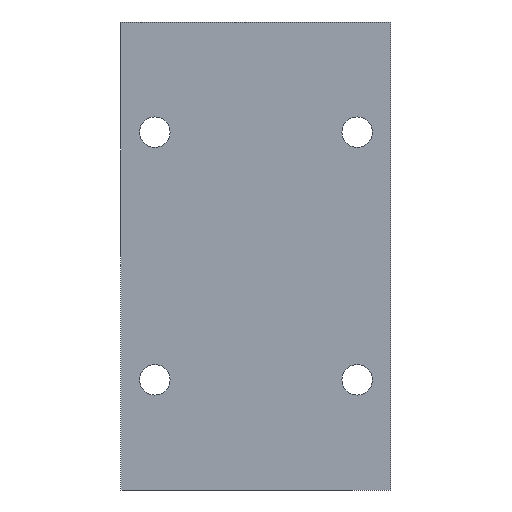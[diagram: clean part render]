
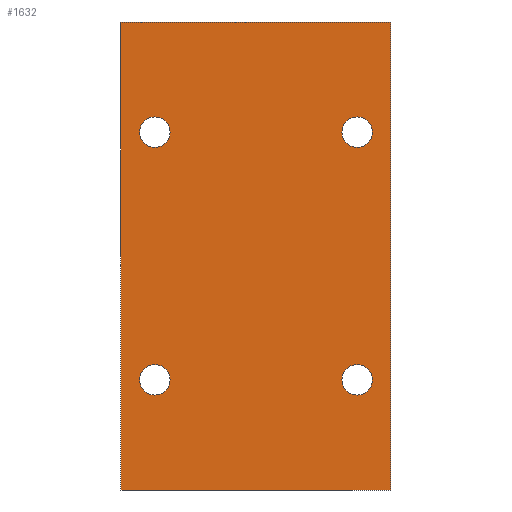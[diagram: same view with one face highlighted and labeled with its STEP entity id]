
A CAD part, front view. The second image highlights one B-rep face of the part: STEP entity #1632.
In plain terms, the highlighted planar face has unit normal (0, -1, 0).
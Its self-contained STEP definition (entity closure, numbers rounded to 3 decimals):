
#72 = CARTESIAN_POINT ( 'NONE',  ( -22.5, -25., -27.5 ) ) ;
#74 = AXIS2_PLACEMENT_3D ( 'NONE', #2046, #172, #781 ) ;
#85 = EDGE_CURVE ( 'NONE', #641, #1463, #175, .T. ) ;
#125 = ORIENTED_EDGE ( 'NONE', *, *, #975, .T. ) ;
#127 = CIRCLE ( 'NONE', #1926, 3.4 ) ;
#129 = CARTESIAN_POINT ( 'NONE',  ( 22.5, -25., -24.1 ) ) ;
#140 = EDGE_LOOP ( 'NONE', ( #1803, #681 ) ) ;
#152 = EDGE_LOOP ( 'NONE', ( #1981, #1283 ) ) ;
#159 = DIRECTION ( 'NONE',  ( 0., -1., 0. ) ) ;
#164 = VECTOR ( 'NONE', #679, 1000. ) ;
#172 = DIRECTION ( 'NONE',  ( 0., -1., 0. ) ) ;
#175 = CIRCLE ( 'NONE', #1896, 3.4 ) ;
#176 = ORIENTED_EDGE ( 'NONE', *, *, #505, .T. ) ;
#196 = PLANE ( 'NONE',  #1931 ) ;
#219 = CARTESIAN_POINT ( 'NONE',  ( -30., -25., 52. ) ) ;
#250 = CARTESIAN_POINT ( 'NONE',  ( 30., -25., 52. ) ) ;
#277 = EDGE_CURVE ( 'NONE', #1068, #1194, #1556, .T. ) ;
#310 = CARTESIAN_POINT ( 'NONE',  ( 22.5, -25., -27.5 ) ) ;
#314 = DIRECTION ( 'NONE',  ( 0., 0., -1. ) ) ;
#332 = CIRCLE ( 'NONE', #733, 3.4 ) ;
#353 = ORIENTED_EDGE ( 'NONE', *, *, #1695, .F. ) ;
#373 = DIRECTION ( 'NONE',  ( 0., 0., -1. ) ) ;
#410 = DIRECTION ( 'NONE',  ( 0., -1., 0. ) ) ;
#441 = CARTESIAN_POINT ( 'NONE',  ( 22.5, -25., 27.5 ) ) ;
#475 = LINE ( 'NONE', #1166, #164 ) ;
#479 = CARTESIAN_POINT ( 'NONE',  ( 30., -25., -52. ) ) ;
#502 = ORIENTED_EDGE ( 'NONE', *, *, #1903, .F. ) ;
#505 = EDGE_CURVE ( 'NONE', #851, #1109, #741, .T. ) ;
#526 = AXIS2_PLACEMENT_3D ( 'NONE', #72, #1025, #1963 ) ;
#536 = CARTESIAN_POINT ( 'NONE',  ( -22.5, -25., 27.5 ) ) ;
#556 = CARTESIAN_POINT ( 'NONE',  ( -30., -25., 52. ) ) ;
#558 = VERTEX_POINT ( 'NONE', #250 ) ;
#559 = AXIS2_PLACEMENT_3D ( 'NONE', #310, #811, #1458 ) ;
#582 = DIRECTION ( 'NONE',  ( 0., -1., 0. ) ) ;
#589 = DIRECTION ( 'NONE',  ( 1., 0., 0. ) ) ;
#641 = VERTEX_POINT ( 'NONE', #1365 ) ;
#662 = EDGE_CURVE ( 'NONE', #1710, #1300, #1883, .T. ) ;
#679 = DIRECTION ( 'NONE',  ( 0., 0., -1. ) ) ;
#681 = ORIENTED_EDGE ( 'NONE', *, *, #85, .F. ) ;
#682 = DIRECTION ( 'NONE',  ( 0., 1., 0. ) ) ;
#689 = VERTEX_POINT ( 'NONE', #1655 ) ;
#695 = EDGE_CURVE ( 'NONE', #1463, #641, #788, .T. ) ;
#712 = ORIENTED_EDGE ( 'NONE', *, *, #1177, .F. ) ;
#733 = AXIS2_PLACEMENT_3D ( 'NONE', #1034, #159, #314 ) ;
#741 = LINE ( 'NONE', #1071, #1730 ) ;
#781 = DIRECTION ( 'NONE',  ( 0., 0., -1. ) ) ;
#788 = CIRCLE ( 'NONE', #1600, 3.4 ) ;
#797 = EDGE_CURVE ( 'NONE', #1194, #1068, #127, .T. ) ;
#811 = DIRECTION ( 'NONE',  ( 0., -1., 0. ) ) ;
#817 = FACE_BOUND ( 'NONE', #152, .T. ) ;
#851 = VERTEX_POINT ( 'NONE', #1940 ) ;
#873 = CARTESIAN_POINT ( 'NONE',  ( 22.5, -25., -30.9 ) ) ;
#957 = ORIENTED_EDGE ( 'NONE', *, *, #1090, .F. ) ;
#964 = EDGE_LOOP ( 'NONE', ( #502, #957 ) ) ;
#975 = EDGE_CURVE ( 'NONE', #1411, #851, #2000, .T. ) ;
#992 = EDGE_LOOP ( 'NONE', ( #1468, #712 ) ) ;
#995 = CARTESIAN_POINT ( 'NONE',  ( -22.5, -25., -24.1 ) ) ;
#1001 = CIRCLE ( 'NONE', #74, 3.4 ) ;
#1012 = CARTESIAN_POINT ( 'NONE',  ( -22.5, -25., -30.9 ) ) ;
#1025 = DIRECTION ( 'NONE',  ( 0., -1., 0. ) ) ;
#1034 = CARTESIAN_POINT ( 'NONE',  ( 22.5, -25., 27.5 ) ) ;
#1068 = VERTEX_POINT ( 'NONE', #873 ) ;
#1071 = CARTESIAN_POINT ( 'NONE',  ( -30., -25., -52. ) ) ;
#1085 = DIRECTION ( 'NONE',  ( 0., 0., -1. ) ) ;
#1090 = EDGE_CURVE ( 'NONE', #1916, #689, #332, .T. ) ;
#1109 = VERTEX_POINT ( 'NONE', #479 ) ;
#1148 = FACE_OUTER_BOUND ( 'NONE', #1755, .T. ) ;
#1166 = CARTESIAN_POINT ( 'NONE',  ( 30., -25., 52. ) ) ;
#1177 = EDGE_CURVE ( 'NONE', #1300, #1710, #1001, .T. ) ;
#1180 = DIRECTION ( 'NONE',  ( 0., 0., -1. ) ) ;
#1194 = VERTEX_POINT ( 'NONE', #129 ) ;
#1209 = CARTESIAN_POINT ( 'NONE',  ( -22.5, -25., 27.5 ) ) ;
#1218 = DIRECTION ( 'NONE',  ( 0., -1., 0. ) ) ;
#1283 = ORIENTED_EDGE ( 'NONE', *, *, #797, .F. ) ;
#1285 = EDGE_CURVE ( 'NONE', #558, #1109, #475, .T. ) ;
#1300 = VERTEX_POINT ( 'NONE', #995 ) ;
#1304 = FACE_BOUND ( 'NONE', #992, .T. ) ;
#1317 = DIRECTION ( 'NONE',  ( 0., 0., 1. ) ) ;
#1343 = VECTOR ( 'NONE', #1801, 1000. ) ;
#1365 = CARTESIAN_POINT ( 'NONE',  ( -22.5, -25., 30.9 ) ) ;
#1411 = VERTEX_POINT ( 'NONE', #1779 ) ;
#1458 = DIRECTION ( 'NONE',  ( 0., 0., -1. ) ) ;
#1463 = VERTEX_POINT ( 'NONE', #1701 ) ;
#1465 = FACE_BOUND ( 'NONE', #964, .T. ) ;
#1468 = ORIENTED_EDGE ( 'NONE', *, *, #662, .F. ) ;
#1509 = LINE ( 'NONE', #556, #1343 ) ;
#1556 = CIRCLE ( 'NONE', #559, 3.4 ) ;
#1591 = DIRECTION ( 'NONE',  ( 0., 0., -1. ) ) ;
#1600 = AXIS2_PLACEMENT_3D ( 'NONE', #1209, #410, #1685 ) ;
#1629 = FACE_BOUND ( 'NONE', #140, .T. ) ;
#1632 = ADVANCED_FACE ( 'NONE', ( #817, #1465, #1629, #1148, #1304 ), #196, .F. ) ;
#1642 = CARTESIAN_POINT ( 'NONE',  ( -30., -25., 52. ) ) ;
#1643 = AXIS2_PLACEMENT_3D ( 'NONE', #441, #1218, #1085 ) ;
#1655 = CARTESIAN_POINT ( 'NONE',  ( 22.5, -25., 24.1 ) ) ;
#1685 = DIRECTION ( 'NONE',  ( 0., 0., -1. ) ) ;
#1695 = EDGE_CURVE ( 'NONE', #1411, #558, #1509, .T. ) ;
#1700 = VECTOR ( 'NONE', #373, 1000. ) ;
#1701 = CARTESIAN_POINT ( 'NONE',  ( -22.5, -25., 24.1 ) ) ;
#1710 = VERTEX_POINT ( 'NONE', #1012 ) ;
#1730 = VECTOR ( 'NONE', #589, 1000. ) ;
#1755 = EDGE_LOOP ( 'NONE', ( #176, #1872, #353, #125 ) ) ;
#1779 = CARTESIAN_POINT ( 'NONE',  ( -30., -25., 52. ) ) ;
#1790 = DIRECTION ( 'NONE',  ( 0., -1., 0. ) ) ;
#1801 = DIRECTION ( 'NONE',  ( 1., 0., 0. ) ) ;
#1803 = ORIENTED_EDGE ( 'NONE', *, *, #695, .F. ) ;
#1862 = CARTESIAN_POINT ( 'NONE',  ( 22.5, -25., 30.9 ) ) ;
#1872 = ORIENTED_EDGE ( 'NONE', *, *, #1285, .F. ) ;
#1883 = CIRCLE ( 'NONE', #526, 3.4 ) ;
#1896 = AXIS2_PLACEMENT_3D ( 'NONE', #536, #1790, #1180 ) ;
#1903 = EDGE_CURVE ( 'NONE', #689, #1916, #2028, .T. ) ;
#1916 = VERTEX_POINT ( 'NONE', #1862 ) ;
#1926 = AXIS2_PLACEMENT_3D ( 'NONE', #2048, #582, #1591 ) ;
#1931 = AXIS2_PLACEMENT_3D ( 'NONE', #1642, #682, #1317 ) ;
#1940 = CARTESIAN_POINT ( 'NONE',  ( -30., -25., -52. ) ) ;
#1963 = DIRECTION ( 'NONE',  ( 0., 0., -1. ) ) ;
#1981 = ORIENTED_EDGE ( 'NONE', *, *, #277, .F. ) ;
#2000 = LINE ( 'NONE', #219, #1700 ) ;
#2028 = CIRCLE ( 'NONE', #1643, 3.4 ) ;
#2046 = CARTESIAN_POINT ( 'NONE',  ( -22.5, -25., -27.5 ) ) ;
#2048 = CARTESIAN_POINT ( 'NONE',  ( 22.5, -25., -27.5 ) ) ;
